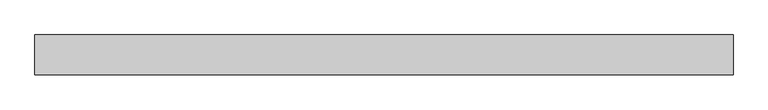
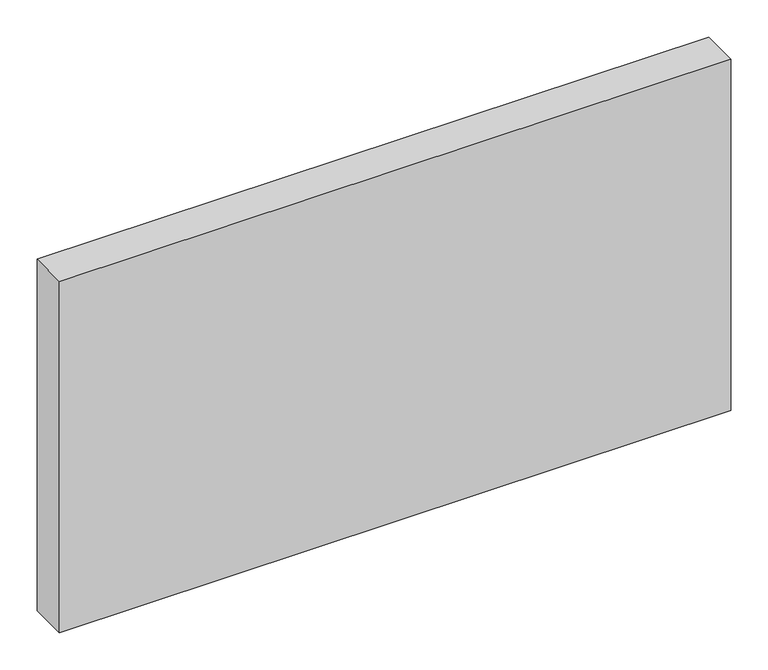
"""IFC4 building model written with IfcOpenShell, lengths in millimetres: plate geometry, Системная панель : Алюкобонд серый."""

from ifc_helpers import new_model, si_unit, origin, origin_with_axes, place, context, project, spatial, polyline, outline, extrude, source, transform, mapped, element, save


def plate_26d1f28f(model_context):
    return source(origin(), model_context, "Body", "SweptSolid", [
        extrude(outline(polyline([(523.7047294, -49.5), (-523.7047294, -49.5), (-523.7047294, 10.5), (523.7047294, 10.5), (523.7047294, -49.5)])), origin_with_axes(), (0.0, 0.0, 1.0), 580.0),
    ])


if __name__ == "__main__":
    model = new_model("IFC4")
    model_context = context("Model", 3, world=origin())
    ifc_project = project(units=[si_unit("LENGTHUNIT", "METRE", prefix="MILLI")], contexts=[model_context])
    site = spatial("IfcSite", under=ifc_project)
    building = spatial("IfcBuilding", under=site)
    placement = place(None, origin())
    plate_shape = plate_26d1f28f(model_context)
    element("IfcPlate", 1, ObjectType="Системная панель : Алюкобонд серый", at=placement, inside=building, context=model_context, shape_type="MappedRepresentation", body=[
        mapped(plate_shape, transform((0.0, 0.0, 0.0), x_axis=(1.0, 0.0, 0.0), y_axis=(0.0, 1.0, 0.0), z_axis=(0.0, 0.0, 1.0))),
    ])
    save(model, "model.ifc")
